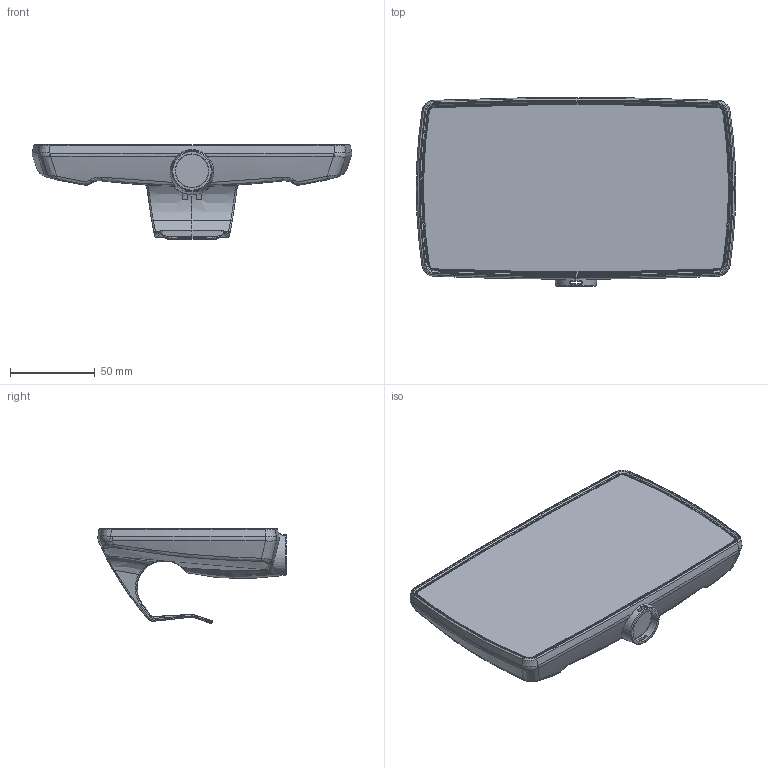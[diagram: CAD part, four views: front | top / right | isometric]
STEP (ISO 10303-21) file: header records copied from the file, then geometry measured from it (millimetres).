
FILE_DESCRIPTION((''),'2;1');
FILE_NAME('ACO_32MM','2009-08-11T',('ABL'),(''),'PRO/ENGINEER BY PARAMETRIC TECHNOLOGY CORPORATION, 2007310','PRO/ENGINEER BY PARAMETRIC TECHNOLOGY CORPORATION, 2007310','');
FILE_SCHEMA(('CONFIG_CONTROL_DESIGN'));
Length unit declared in the file: millimetre
Products named in the file (1): ACO_32MM
Bounding box: 188.08 x 111.01 x 55.87 mm (x, y, z)
Volume: 376577.9 mm3; surface area: 55496.7 mm2
Topology: 1 solids, 1 shells, 346 faces, 917 edges, 565 vertices
Faces by surface type: bspline 128, cylinder 68, torus 64, plane 50, cone 30, sphere 6
Entity records: 18539 total; most frequent: CARTESIAN_POINT 11061, ORIENTED_EDGE 1824, DIRECTION 1171, EDGE_CURVE 912, VERTEX_POINT 565, AXIS2_PLACEMENT_3D 500, B_SPLINE_CURVE_WITH_KNOTS 459, EDGE_LOOP 351
